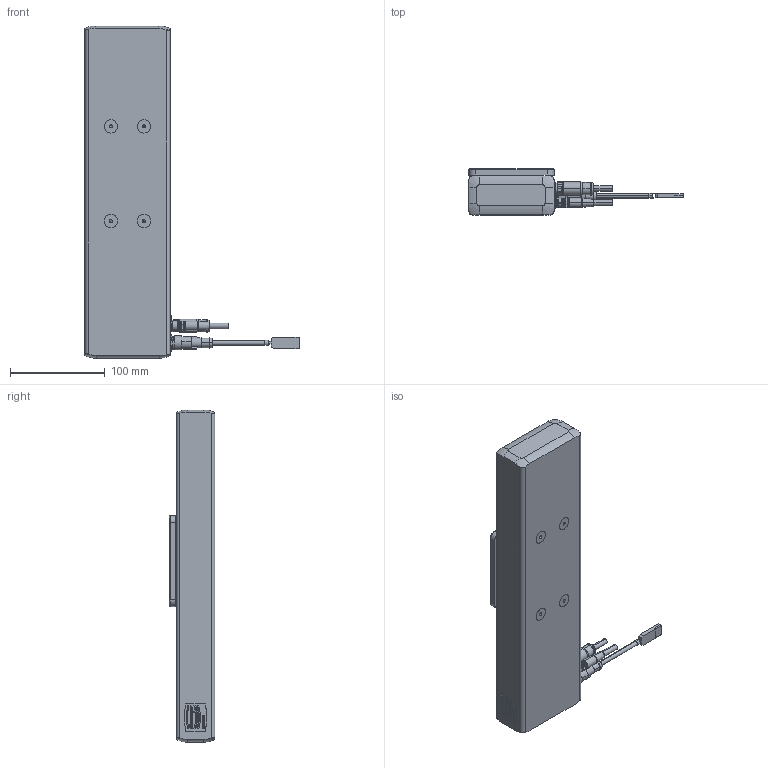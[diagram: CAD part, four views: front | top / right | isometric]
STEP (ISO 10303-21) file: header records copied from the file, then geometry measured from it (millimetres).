
FILE_DESCRIPTION((''),'2;1');
FILE_NAME('WEB_LTP90-150_ASM','2018-06-28T',('de_pablo'),(''),'PRO/ENGINEER BY PARAMETRIC TECHNOLOGY CORPORATION, 2015280','PRO/ENGINEER BY PARAMETRIC TECHNOLOGY CORPORATION, 2015280','');
FILE_SCHEMA(('AUTOMOTIVE_DESIGN { 1 0 10303 214 1 1 1 1 }'));
Products named in the file (15): GRUNDKOERPER_150; SCHIEBER_; 789000_010_10_LOGO_30X24X1; SLOTBLECH; SCHIEBERPLATTE; 9974058_EBST_CONEC_1424233; 997XXXX_SENSORKABEL_SAC; 9974062_MUTTER_M12X1_M_FASE; 9974061_M12-MINI-USB_1440711; 9973261_KABEL_VS_FSDB_IP20SDA; 9972972_STECKER_09-3403-00-03; 997XXXX_KUPPLG_M8X1_D14_SW13; ISO7380_LINSENKOPF_M3X6; D912M4L10V1_A2; WEB_LTP90-150_ASM
Assembly tree (20 placements, depth 2):
  WEB_LTP90-150_ASM
    GRUNDKOERPER_150
    SCHIEBER_
    789000_010_10_LOGO_30X24X1
    SLOTBLECH
    SCHIEBERPLATTE
    9974058_EBST_CONEC_1424233
    997XXXX_SENSORKABEL_SAC
    9974062_MUTTER_M12X1_M_FASE
    9974061_M12-MINI-USB_1440711
    9973261_KABEL_VS_FSDB_IP20SDA
    9972972_STECKER_09-3403-00-03
    997XXXX_KUPPLG_M8X1_D14_SW13
    ISO7380_LINSENKOPF_M3X6  x4
    D912M4L10V1_A2  x4
Bounding box: 226.5 x 48.5 x 351 mm (x, y, z)
Volume: 1125675.4 mm3; surface area: 197405.7 mm2
Topology: 20 solids, 20 shells, 2043 faces, 5308 edges, 3406 vertices
Faces by surface type: plane 835, cylinder 620, extrusion 272, cone 167, bspline 93, torus 48, sphere 8
Entity records: 92849 total; most frequent: CARTESIAN_POINT 22970, ORIENTED_EDGE 10120, DIRECTION 8986, PRESENTATION_STYLE_ASSIGNMENT 5096, EDGE_CURVE 5060, STYLED_ITEM 4053, CURVE_STYLE 4011, VERTEX_POINT 3274
